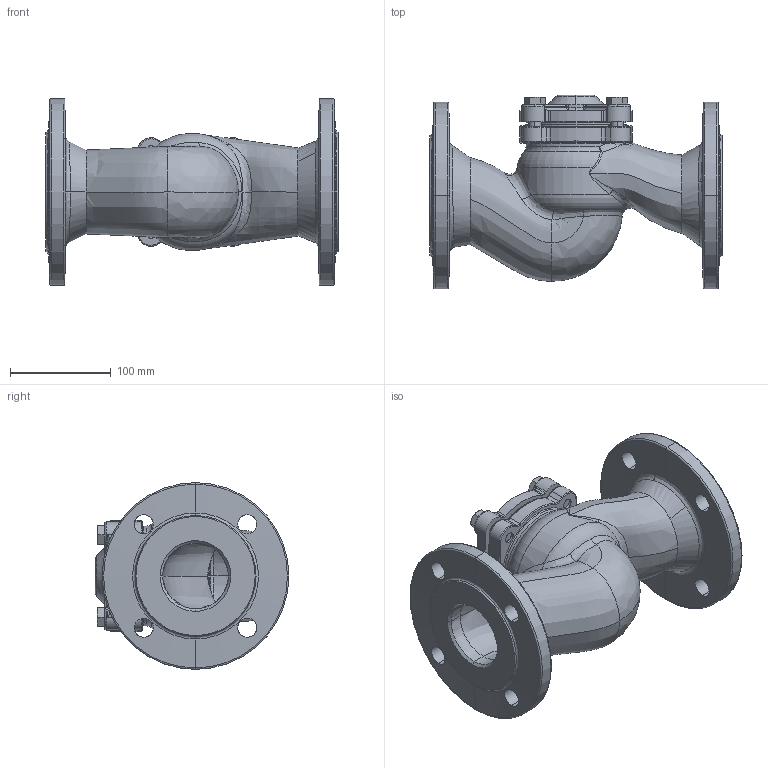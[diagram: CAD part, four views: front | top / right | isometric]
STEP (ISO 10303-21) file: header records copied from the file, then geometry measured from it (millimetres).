
FILE_DESCRIPTION (( 'STEP AP214' ), '1' );
FILE_NAME ('TCV_DN65 PN16.STEP', '2024-08-15T11:59:57', ( '' ), ( '' ), 'SwSTEP 2.0', 'SolidWorks 2023', '' );
FILE_SCHEMA (( 'AUTOMOTIVE_DESIGN' ));
Length unit declared in the file: millimetre
Products named in the file (1): TCV_DN65 PN16
Bounding box: 290 x 192 x 185 mm (x, y, z)
Volume: 1815742.8 mm3; surface area: 330743.8 mm2
Topology: 6 solids, 6 shells, 545 faces, 1300 edges, 765 vertices
Faces by surface type: bspline 173, cylinder 153, plane 109, torus 56, cone 52, sphere 2
Entity records: 106301 total; most frequent: CARTESIAN_POINT 95382, ORIENTED_EDGE 2576, DIRECTION 1728, EDGE_CURVE 1288, VERTEX_POINT 765, AXIS2_PLACEMENT_3D 698, EDGE_LOOP 591, ADVANCED_FACE 545
